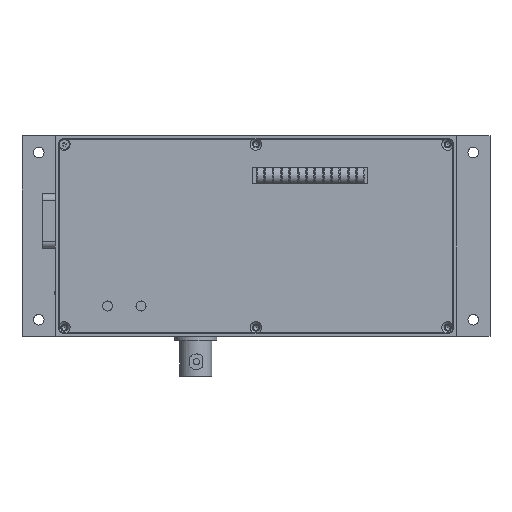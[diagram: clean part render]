
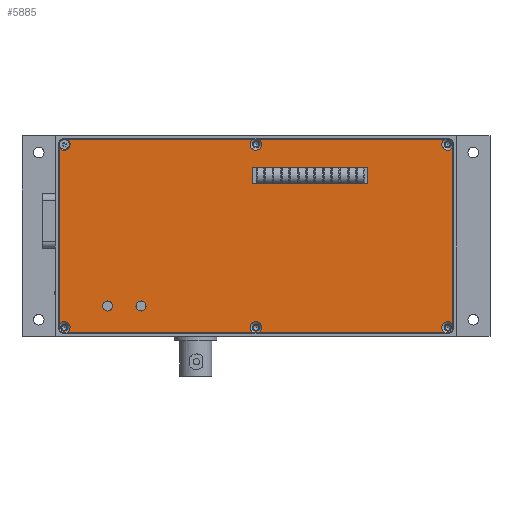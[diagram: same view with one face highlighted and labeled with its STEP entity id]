
A CAD part, top view. The second image highlights one B-rep face of the part: STEP entity #5885.
In plain terms, the highlighted planar face has unit normal (0, 0, 1).
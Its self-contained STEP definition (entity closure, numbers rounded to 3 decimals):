
#516=CIRCLE('',#6463,1.5);
#518=CIRCLE('',#6466,1.5);
#520=CIRCLE('',#6469,1.75);
#521=CIRCLE('',#6472,1.75);
#524=CIRCLE('',#6478,1.75);
#525=CIRCLE('',#6481,1.75);
#526=CIRCLE('',#6482,1.75);
#527=CIRCLE('',#6483,1.75);
#794=FACE_BOUND('',#1531,.T.);
#795=FACE_BOUND('',#1532,.T.);
#796=FACE_BOUND('',#1533,.T.);
#1042=FACE_OUTER_BOUND('',#1530,.T.);
#1530=EDGE_LOOP('',(#4516,#4517,#4518,#4519,#4520,#4521,#4522,#4523,#4524,
#4525,#4526,#4527));
#1531=EDGE_LOOP('',(#4528,#4529,#4530,#4531));
#1532=EDGE_LOOP('',(#4532));
#1533=EDGE_LOOP('',(#4533));
#2048=LINE('',#9350,#2444);
#2052=LINE('',#9377,#2448);
#2053=LINE('',#9383,#2449);
#2057=LINE('',#9407,#2453);
#2060=LINE('',#9413,#2456);
#2063=LINE('',#9419,#2459);
#2066=LINE('',#9423,#2462);
#2068=LINE('',#9460,#2464);
#2069=LINE('',#9465,#2465);
#2070=LINE('',#9469,#2466);
#2444=VECTOR('',#7522,10.);
#2448=VECTOR('',#7530,10.);
#2449=VECTOR('',#7531,10.);
#2453=VECTOR('',#7539,10.);
#2456=VECTOR('',#7544,10.);
#2459=VECTOR('',#7549,10.);
#2462=VECTOR('',#7554,10.);
#2464=VECTOR('',#7594,10.);
#2465=VECTOR('',#7599,10.);
#2466=VECTOR('',#7602,10.);
#2890=VERTEX_POINT('',#9345);
#2891=VERTEX_POINT('',#9349);
#2895=VERTEX_POINT('',#9372);
#2896=VERTEX_POINT('',#9376);
#2897=VERTEX_POINT('',#9378);
#2898=VERTEX_POINT('',#9382);
#2902=VERTEX_POINT('',#9404);
#2903=VERTEX_POINT('',#9406);
#2905=VERTEX_POINT('',#9412);
#2907=VERTEX_POINT('',#9418);
#2909=VERTEX_POINT('',#9427);
#2911=VERTEX_POINT('',#9432);
#2913=VERTEX_POINT('',#9437);
#2917=VERTEX_POINT('',#9456);
#2918=VERTEX_POINT('',#9462);
#2919=VERTEX_POINT('',#9464);
#2920=VERTEX_POINT('',#9466);
#2921=VERTEX_POINT('',#9468);
#3495=EDGE_CURVE('',#2890,#2891,#2048,.T.);
#3502=EDGE_CURVE('',#2895,#2896,#2052,.T.);
#3504=EDGE_CURVE('',#2897,#2898,#2053,.T.);
#3510=EDGE_CURVE('',#2903,#2902,#2057,.T.);
#3513=EDGE_CURVE('',#2905,#2903,#2060,.T.);
#3516=EDGE_CURVE('',#2907,#2905,#2063,.T.);
#3519=EDGE_CURVE('',#2902,#2907,#2066,.T.);
#3521=EDGE_CURVE('',#2909,#2909,#516,.T.);
#3523=EDGE_CURVE('',#2911,#2911,#518,.T.);
#3526=EDGE_CURVE('',#2895,#2913,#520,.T.);
#3527=EDGE_CURVE('',#2897,#2896,#521,.T.);
#3530=EDGE_CURVE('',#2890,#2898,#524,.T.);
#3533=EDGE_CURVE('',#2917,#2913,#2068,.T.);
#3534=EDGE_CURVE('',#2917,#2918,#525,.T.);
#3535=EDGE_CURVE('',#2919,#2918,#2069,.T.);
#3536=EDGE_CURVE('',#2919,#2920,#526,.T.);
#3537=EDGE_CURVE('',#2921,#2920,#2070,.T.);
#3538=EDGE_CURVE('',#2921,#2891,#527,.T.);
#4516=ORIENTED_EDGE('',*,*,#3526,.T.);
#4517=ORIENTED_EDGE('',*,*,#3533,.F.);
#4518=ORIENTED_EDGE('',*,*,#3534,.T.);
#4519=ORIENTED_EDGE('',*,*,#3535,.F.);
#4520=ORIENTED_EDGE('',*,*,#3536,.T.);
#4521=ORIENTED_EDGE('',*,*,#3537,.F.);
#4522=ORIENTED_EDGE('',*,*,#3538,.T.);
#4523=ORIENTED_EDGE('',*,*,#3495,.F.);
#4524=ORIENTED_EDGE('',*,*,#3530,.T.);
#4525=ORIENTED_EDGE('',*,*,#3504,.F.);
#4526=ORIENTED_EDGE('',*,*,#3527,.T.);
#4527=ORIENTED_EDGE('',*,*,#3502,.F.);
#4528=ORIENTED_EDGE('',*,*,#3516,.T.);
#4529=ORIENTED_EDGE('',*,*,#3513,.T.);
#4530=ORIENTED_EDGE('',*,*,#3510,.T.);
#4531=ORIENTED_EDGE('',*,*,#3519,.T.);
#4532=ORIENTED_EDGE('',*,*,#3521,.T.);
#4533=ORIENTED_EDGE('',*,*,#3523,.T.);
#5554=PLANE('',#6480);
#5885=ADVANCED_FACE('',(#1042,#794,#795,#796),#5554,.T.);
#6463=AXIS2_PLACEMENT_3D('',#9428,#7559,#7560);
#6466=AXIS2_PLACEMENT_3D('',#9433,#7565,#7566);
#6469=AXIS2_PLACEMENT_3D('',#9441,#7571,#7572);
#6472=AXIS2_PLACEMENT_3D('',#9444,#7577,#7578);
#6478=AXIS2_PLACEMENT_3D('',#9452,#7589,#7590);
#6480=AXIS2_PLACEMENT_3D('',#9461,#7595,#7596);
#6481=AXIS2_PLACEMENT_3D('',#9463,#7597,#7598);
#6482=AXIS2_PLACEMENT_3D('',#9467,#7600,#7601);
#6483=AXIS2_PLACEMENT_3D('',#9470,#7603,#7604);
#7522=DIRECTION('',(0.,1.,0.));
#7530=DIRECTION('',(-1.,0.,0.));
#7531=DIRECTION('',(-1.,0.,0.));
#7539=DIRECTION('',(0.,-1.,0.));
#7544=DIRECTION('',(1.,0.,0.));
#7549=DIRECTION('',(0.,1.,0.));
#7554=DIRECTION('',(-1.,0.,0.));
#7559=DIRECTION('center_axis',(0.,0.,-1.));
#7560=DIRECTION('ref_axis',(1.,0.,0.));
#7565=DIRECTION('center_axis',(0.,0.,-1.));
#7566=DIRECTION('ref_axis',(1.,0.,0.));
#7571=DIRECTION('center_axis',(0.,0.,-1.));
#7572=DIRECTION('ref_axis',(1.,0.,0.));
#7577=DIRECTION('center_axis',(0.,0.,-1.));
#7578=DIRECTION('ref_axis',(1.,0.,0.));
#7589=DIRECTION('center_axis',(0.,0.,-1.));
#7590=DIRECTION('ref_axis',(1.,0.,0.));
#7594=DIRECTION('',(0.,-1.,0.));
#7595=DIRECTION('center_axis',(0.,0.,1.));
#7596=DIRECTION('ref_axis',(1.,0.,0.));
#7597=DIRECTION('center_axis',(0.,0.,-1.));
#7598=DIRECTION('ref_axis',(1.,0.,0.));
#7599=DIRECTION('',(1.,0.,0.));
#7600=DIRECTION('center_axis',(0.,0.,-1.));
#7601=DIRECTION('ref_axis',(1.,0.,0.));
#7602=DIRECTION('',(1.,0.,0.));
#7603=DIRECTION('center_axis',(0.,0.,-1.));
#7604=DIRECTION('ref_axis',(1.,0.,0.));
#9345=CARTESIAN_POINT('',(-58.9,-26.588,2.));
#9349=CARTESIAN_POINT('',(-58.9,26.588,2.));
#9350=CARTESIAN_POINT('',(-58.9,-28.95,2.));
#9372=CARTESIAN_POINT('',(56.538,-28.95,2.));
#9376=CARTESIAN_POINT('',(0.812,-28.95,2.));
#9377=CARTESIAN_POINT('',(58.9,-28.95,2.));
#9378=CARTESIAN_POINT('',(-0.812,-28.95,2.));
#9382=CARTESIAN_POINT('',(-56.538,-28.95,2.));
#9383=CARTESIAN_POINT('',(58.9,-28.95,2.));
#9404=CARTESIAN_POINT('',(1.,-20.55,2.));
#9406=CARTESIAN_POINT('',(1.,-15.55,2.));
#9407=CARTESIAN_POINT('',(1.,-10.275,2.));
#9412=CARTESIAN_POINT('',(-33.5,-15.55,2.));
#9413=CARTESIAN_POINT('',(0.5,-15.55,2.));
#9418=CARTESIAN_POINT('',(-33.5,-20.55,2.));
#9419=CARTESIAN_POINT('',(-33.5,-7.775,2.));
#9423=CARTESIAN_POINT('',(-16.75,-20.55,2.));
#9427=CARTESIAN_POINT('',(45.9,20.95,2.));
#9428=CARTESIAN_POINT('Origin',(44.4,20.95,2.));
#9432=CARTESIAN_POINT('',(35.9,20.95,2.));
#9433=CARTESIAN_POINT('Origin',(34.4,20.95,2.));
#9437=CARTESIAN_POINT('',(58.9,-26.588,2.));
#9441=CARTESIAN_POINT('Origin',(57.35,-27.4,2.));
#9444=CARTESIAN_POINT('Origin',(0.,-27.4,2.));
#9452=CARTESIAN_POINT('Origin',(-57.35,-27.4,2.));
#9456=CARTESIAN_POINT('',(58.9,26.588,2.));
#9460=CARTESIAN_POINT('',(58.9,28.95,2.));
#9461=CARTESIAN_POINT('Origin',(0.,0.,2.));
#9462=CARTESIAN_POINT('',(56.538,28.95,2.));
#9463=CARTESIAN_POINT('Origin',(57.35,27.4,2.));
#9464=CARTESIAN_POINT('',(0.812,28.95,2.));
#9465=CARTESIAN_POINT('',(-58.9,28.95,2.));
#9466=CARTESIAN_POINT('',(-0.812,28.95,2.));
#9467=CARTESIAN_POINT('Origin',(0.,27.4,2.));
#9468=CARTESIAN_POINT('',(-56.538,28.95,2.));
#9469=CARTESIAN_POINT('',(-58.9,28.95,2.));
#9470=CARTESIAN_POINT('Origin',(-57.35,27.4,2.));
